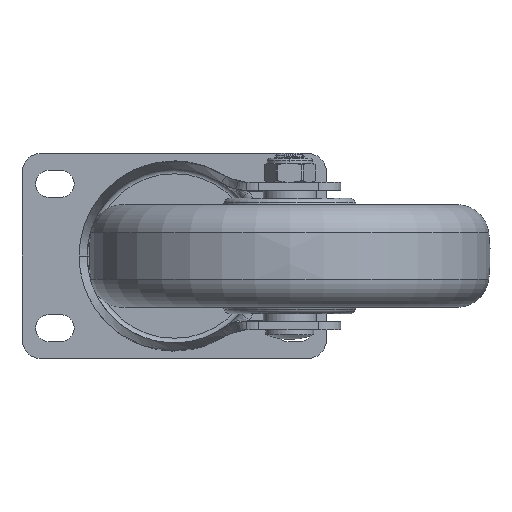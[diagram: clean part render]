
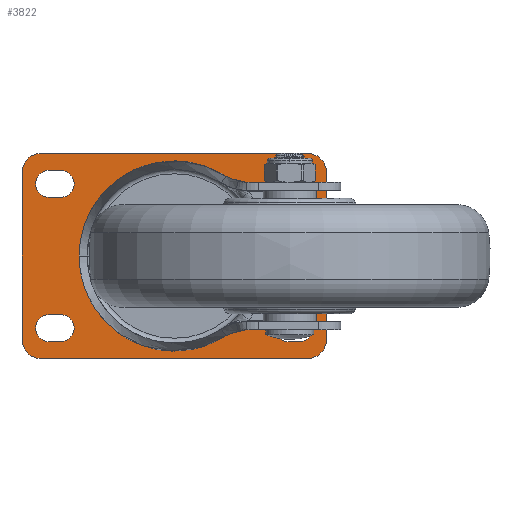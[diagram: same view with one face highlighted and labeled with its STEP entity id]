
A CAD part, front view. The second image highlights one B-rep face of the part: STEP entity #3822.
In plain terms, the highlighted planar face has unit normal (0, -1, 0).
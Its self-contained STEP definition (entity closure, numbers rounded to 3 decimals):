
#998=CARTESIAN_POINT('',(0.,-3.8,0.));
#999=DIRECTION('',(0.,-1.,0.));
#1000=DIRECTION('',(-1.,0.,0.));
#1001=AXIS2_PLACEMENT_3D('',#998,#999,#1000);
#1008=CARTESIAN_POINT('',(0.,-3.8,0.));
#1009=DIRECTION('',(0.,1.,0.));
#1010=DIRECTION('',(-1.,0.,0.));
#1011=AXIS2_PLACEMENT_3D('',#1008,#1009,#1010);
#1018=DIRECTION('',(1.,0.,0.));
#1019=VECTOR('',#1018,3.5);
#1020=CARTESIAN_POINT('',(-39.,-3.8,-18.25));
#1021=LINE('',#1020,#1019);
#1022=CARTESIAN_POINT('',(-39.,-3.8,-22.5));
#1023=DIRECTION('',(0.,1.,0.));
#1024=DIRECTION('',(0.,0.,-1.));
#1025=AXIS2_PLACEMENT_3D('',#1022,#1023,#1024);
#1027=DIRECTION('',(-1.,0.,0.));
#1028=VECTOR('',#1027,3.5);
#1029=CARTESIAN_POINT('',(-35.5,-3.8,-26.75));
#1030=LINE('',#1029,#1028);
#1031=CARTESIAN_POINT('',(-35.5,-3.8,-22.5));
#1032=DIRECTION('',(0.,1.,0.));
#1033=DIRECTION('',(0.,0.,1.));
#1034=AXIS2_PLACEMENT_3D('',#1031,#1032,#1033);
#1036=CARTESIAN_POINT('',(39.,-3.8,-22.5));
#1037=DIRECTION('',(0.,1.,0.));
#1038=DIRECTION('',(0.,0.,1.));
#1039=AXIS2_PLACEMENT_3D('',#1036,#1037,#1038);
#1041=DIRECTION('',(1.,0.,0.));
#1042=VECTOR('',#1041,3.5);
#1043=CARTESIAN_POINT('',(35.5,-3.8,-18.25));
#1044=LINE('',#1043,#1042);
#1045=CARTESIAN_POINT('',(35.5,-3.8,-22.5));
#1046=DIRECTION('',(0.,1.,0.));
#1047=DIRECTION('',(0.,0.,-1.));
#1048=AXIS2_PLACEMENT_3D('',#1045,#1046,#1047);
#1050=DIRECTION('',(-1.,0.,0.));
#1051=VECTOR('',#1050,3.5);
#1052=CARTESIAN_POINT('',(39.,-3.8,-26.75));
#1053=LINE('',#1052,#1051);
#1054=DIRECTION('',(-1.,0.,0.));
#1055=VECTOR('',#1054,3.5);
#1056=CARTESIAN_POINT('',(39.,-3.8,18.25));
#1057=LINE('',#1056,#1055);
#1058=CARTESIAN_POINT('',(39.,-3.8,22.5));
#1059=DIRECTION('',(0.,1.,0.));
#1060=DIRECTION('',(0.,0.,1.));
#1061=AXIS2_PLACEMENT_3D('',#1058,#1059,#1060);
#1063=DIRECTION('',(1.,0.,0.));
#1064=VECTOR('',#1063,3.5);
#1065=CARTESIAN_POINT('',(35.5,-3.8,26.75));
#1066=LINE('',#1065,#1064);
#1067=CARTESIAN_POINT('',(35.5,-3.8,22.5));
#1068=DIRECTION('',(0.,1.,0.));
#1069=DIRECTION('',(0.,0.,-1.));
#1070=AXIS2_PLACEMENT_3D('',#1067,#1068,#1069);
#1072=CARTESIAN_POINT('',(-39.,-3.8,22.5));
#1073=DIRECTION('',(0.,1.,0.));
#1074=DIRECTION('',(0.,0.,-1.));
#1075=AXIS2_PLACEMENT_3D('',#1072,#1073,#1074);
#1077=DIRECTION('',(-1.,0.,0.));
#1078=VECTOR('',#1077,3.5);
#1079=CARTESIAN_POINT('',(-35.5,-3.8,18.25));
#1080=LINE('',#1079,#1078);
#1081=CARTESIAN_POINT('',(-35.5,-3.8,22.5));
#1082=DIRECTION('',(0.,1.,0.));
#1083=DIRECTION('',(0.,0.,1.));
#1084=AXIS2_PLACEMENT_3D('',#1081,#1082,#1083);
#1086=DIRECTION('',(1.,0.,0.));
#1087=VECTOR('',#1086,3.5);
#1088=CARTESIAN_POINT('',(-39.,-3.8,26.75));
#1089=LINE('',#1088,#1087);
#1090=CARTESIAN_POINT('',(41.5,-3.8,26.));
#1091=DIRECTION('',(0.,-1.,0.));
#1092=DIRECTION('',(1.,0.,0.));
#1093=AXIS2_PLACEMENT_3D('',#1090,#1091,#1092);
#1095=DIRECTION('',(0.,0.,1.));
#1096=VECTOR('',#1095,52.);
#1097=CARTESIAN_POINT('',(47.5,-3.8,-26.));
#1098=LINE('',#1097,#1096);
#1099=CARTESIAN_POINT('',(41.5,-3.8,-26.));
#1100=DIRECTION('',(0.,-1.,0.));
#1101=DIRECTION('',(0.,0.,-1.));
#1102=AXIS2_PLACEMENT_3D('',#1099,#1100,#1101);
#1104=DIRECTION('',(1.,0.,0.));
#1105=VECTOR('',#1104,83.);
#1106=CARTESIAN_POINT('',(-41.5,-3.8,-32.));
#1107=LINE('',#1106,#1105);
#1108=CARTESIAN_POINT('',(-41.5,-3.8,-26.));
#1109=DIRECTION('',(0.,-1.,0.));
#1110=DIRECTION('',(-1.,0.,0.));
#1111=AXIS2_PLACEMENT_3D('',#1108,#1109,#1110);
#1113=DIRECTION('',(0.,0.,-1.));
#1114=VECTOR('',#1113,52.);
#1115=CARTESIAN_POINT('',(-47.5,-3.8,26.));
#1116=LINE('',#1115,#1114);
#1117=CARTESIAN_POINT('',(-41.5,-3.8,26.));
#1118=DIRECTION('',(0.,-1.,0.));
#1119=DIRECTION('',(0.,0.,1.));
#1120=AXIS2_PLACEMENT_3D('',#1117,#1118,#1119);
#1122=DIRECTION('',(-1.,0.,0.));
#1123=VECTOR('',#1122,83.);
#1124=CARTESIAN_POINT('',(41.5,-3.8,32.));
#1125=LINE('',#1124,#1123);
#1540=CARTESIAN_POINT('',(-24.175,-3.8,0.));
#1542=VERTEX_POINT('',#1540);
#1558=CARTESIAN_POINT('',(24.175,-3.8,0.));
#1560=VERTEX_POINT('',#1558);
#1598=CARTESIAN_POINT('',(-39.,-3.8,-18.25));
#1599=CARTESIAN_POINT('',(-35.5,-3.8,-18.25));
#1600=VERTEX_POINT('',#1598);
#1601=VERTEX_POINT('',#1599);
#1602=CARTESIAN_POINT('',(-35.5,-3.8,-26.75));
#1603=VERTEX_POINT('',#1602);
#1604=CARTESIAN_POINT('',(-39.,-3.8,-26.75));
#1605=VERTEX_POINT('',#1604);
#1606=CARTESIAN_POINT('',(39.,-3.8,-18.25));
#1607=CARTESIAN_POINT('',(39.,-3.8,-26.75));
#1608=VERTEX_POINT('',#1606);
#1609=VERTEX_POINT('',#1607);
#1610=CARTESIAN_POINT('',(35.5,-3.8,-26.75));
#1611=VERTEX_POINT('',#1610);
#1612=CARTESIAN_POINT('',(35.5,-3.8,-18.25));
#1613=VERTEX_POINT('',#1612);
#1614=CARTESIAN_POINT('',(39.,-3.8,18.25));
#1615=CARTESIAN_POINT('',(35.5,-3.8,18.25));
#1616=VERTEX_POINT('',#1614);
#1617=VERTEX_POINT('',#1615);
#1618=CARTESIAN_POINT('',(35.5,-3.8,26.75));
#1619=VERTEX_POINT('',#1618);
#1620=CARTESIAN_POINT('',(39.,-3.8,26.75));
#1621=VERTEX_POINT('',#1620);
#1622=CARTESIAN_POINT('',(-39.,-3.8,18.25));
#1623=CARTESIAN_POINT('',(-39.,-3.8,26.75));
#1624=VERTEX_POINT('',#1622);
#1625=VERTEX_POINT('',#1623);
#1626=CARTESIAN_POINT('',(-35.5,-3.8,26.75));
#1627=VERTEX_POINT('',#1626);
#1628=CARTESIAN_POINT('',(-35.5,-3.8,18.25));
#1629=VERTEX_POINT('',#1628);
#1634=CARTESIAN_POINT('',(47.5,-3.8,26.));
#1635=VERTEX_POINT('',#1634);
#1636=CARTESIAN_POINT('',(41.5,-3.8,32.));
#1637=VERTEX_POINT('',#1636);
#1642=CARTESIAN_POINT('',(41.5,-3.8,-32.));
#1643=VERTEX_POINT('',#1642);
#1644=CARTESIAN_POINT('',(47.5,-3.8,-26.));
#1645=VERTEX_POINT('',#1644);
#1650=CARTESIAN_POINT('',(-47.5,-3.8,-26.));
#1651=VERTEX_POINT('',#1650);
#1652=CARTESIAN_POINT('',(-41.5,-3.8,-32.));
#1653=VERTEX_POINT('',#1652);
#1658=CARTESIAN_POINT('',(-41.5,-3.8,32.));
#1659=VERTEX_POINT('',#1658);
#1660=CARTESIAN_POINT('',(-47.5,-3.8,26.));
#1661=VERTEX_POINT('',#1660);
#3755=CARTESIAN_POINT('',(0.,-3.8,0.));
#3756=DIRECTION('',(0.,-1.,0.));
#3757=DIRECTION('',(-1.,0.,0.));
#3758=AXIS2_PLACEMENT_3D('',#3755,#3756,#3757);
#3759=PLANE('',#3758);
#3761=ORIENTED_EDGE('',*,*,#3760,.F.);
#3763=ORIENTED_EDGE('',*,*,#3762,.F.);
#3765=ORIENTED_EDGE('',*,*,#3764,.F.);
#3767=ORIENTED_EDGE('',*,*,#3766,.F.);
#3769=ORIENTED_EDGE('',*,*,#3768,.F.);
#3771=ORIENTED_EDGE('',*,*,#3770,.F.);
#3773=ORIENTED_EDGE('',*,*,#3772,.F.);
#3775=ORIENTED_EDGE('',*,*,#3774,.F.);
#3776=EDGE_LOOP('',(#3761,#3763,#3765,#3767,#3769,#3771,#3773,#3775));
#3777=FACE_OUTER_BOUND('',#3776,.F.);
#3779=ORIENTED_EDGE('',*,*,#3778,.F.);
#3781=ORIENTED_EDGE('',*,*,#3780,.F.);
#3783=ORIENTED_EDGE('',*,*,#3782,.F.);
#3785=ORIENTED_EDGE('',*,*,#3784,.F.);
#3786=EDGE_LOOP('',(#3779,#3781,#3783,#3785));
#3787=FACE_BOUND('',#3786,.F.);
#3789=ORIENTED_EDGE('',*,*,#3788,.F.);
#3791=ORIENTED_EDGE('',*,*,#3790,.F.);
#3793=ORIENTED_EDGE('',*,*,#3792,.F.);
#3795=ORIENTED_EDGE('',*,*,#3794,.F.);
#3796=EDGE_LOOP('',(#3789,#3791,#3793,#3795));
#3797=FACE_BOUND('',#3796,.F.);
#3799=ORIENTED_EDGE('',*,*,#3798,.F.);
#3801=ORIENTED_EDGE('',*,*,#3800,.F.);
#3803=ORIENTED_EDGE('',*,*,#3802,.F.);
#3805=ORIENTED_EDGE('',*,*,#3804,.F.);
#3806=EDGE_LOOP('',(#3799,#3801,#3803,#3805));
#3807=FACE_BOUND('',#3806,.F.);
#3809=ORIENTED_EDGE('',*,*,#3808,.F.);
#3811=ORIENTED_EDGE('',*,*,#3810,.F.);
#3813=ORIENTED_EDGE('',*,*,#3812,.F.);
#3815=ORIENTED_EDGE('',*,*,#3814,.F.);
#3816=EDGE_LOOP('',(#3809,#3811,#3813,#3815));
#3817=FACE_BOUND('',#3816,.F.);
#3818=ORIENTED_EDGE('',*,*,#3748,.F.);
#3819=ORIENTED_EDGE('',*,*,#3737,.T.);
#3820=EDGE_LOOP('',(#3818,#3819));
#3821=FACE_BOUND('',#3820,.F.);
#1002=CIRCLE('',#1001,24.175);
#1012=CIRCLE('',#1011,24.175);
#1026=CIRCLE('',#1025,4.25);
#1035=CIRCLE('',#1034,4.25);
#1040=CIRCLE('',#1039,4.25);
#1049=CIRCLE('',#1048,4.25);
#1062=CIRCLE('',#1061,4.25);
#1071=CIRCLE('',#1070,4.25);
#1076=CIRCLE('',#1075,4.25);
#1085=CIRCLE('',#1084,4.25);
#1094=CIRCLE('',#1093,6.);
#1103=CIRCLE('',#1102,6.);
#1112=CIRCLE('',#1111,6.);
#1121=CIRCLE('',#1120,6.);
#3737=EDGE_CURVE('',#1542,#1560,#1002,.T.);
#3748=EDGE_CURVE('',#1542,#1560,#1012,.T.);
#3760=EDGE_CURVE('',#1635,#1637,#1094,.T.);
#3762=EDGE_CURVE('',#1645,#1635,#1098,.T.);
#3764=EDGE_CURVE('',#1643,#1645,#1103,.T.);
#3766=EDGE_CURVE('',#1653,#1643,#1107,.T.);
#3768=EDGE_CURVE('',#1651,#1653,#1112,.T.);
#3770=EDGE_CURVE('',#1661,#1651,#1116,.T.);
#3772=EDGE_CURVE('',#1659,#1661,#1121,.T.);
#3774=EDGE_CURVE('',#1637,#1659,#1125,.T.);
#3778=EDGE_CURVE('',#1600,#1601,#1021,.T.);
#3780=EDGE_CURVE('',#1605,#1600,#1026,.T.);
#3782=EDGE_CURVE('',#1603,#1605,#1030,.T.);
#3784=EDGE_CURVE('',#1601,#1603,#1035,.T.);
#3788=EDGE_CURVE('',#1608,#1609,#1040,.T.);
#3790=EDGE_CURVE('',#1613,#1608,#1044,.T.);
#3792=EDGE_CURVE('',#1611,#1613,#1049,.T.);
#3794=EDGE_CURVE('',#1609,#1611,#1053,.T.);
#3798=EDGE_CURVE('',#1616,#1617,#1057,.T.);
#3800=EDGE_CURVE('',#1621,#1616,#1062,.T.);
#3802=EDGE_CURVE('',#1619,#1621,#1066,.T.);
#3804=EDGE_CURVE('',#1617,#1619,#1071,.T.);
#3808=EDGE_CURVE('',#1624,#1625,#1076,.T.);
#3810=EDGE_CURVE('',#1629,#1624,#1080,.T.);
#3812=EDGE_CURVE('',#1627,#1629,#1085,.T.);
#3814=EDGE_CURVE('',#1625,#1627,#1089,.T.);
#3822=ADVANCED_FACE('',(#3777,#3787,#3797,#3807,#3817,#3821),#3759,.T.);
